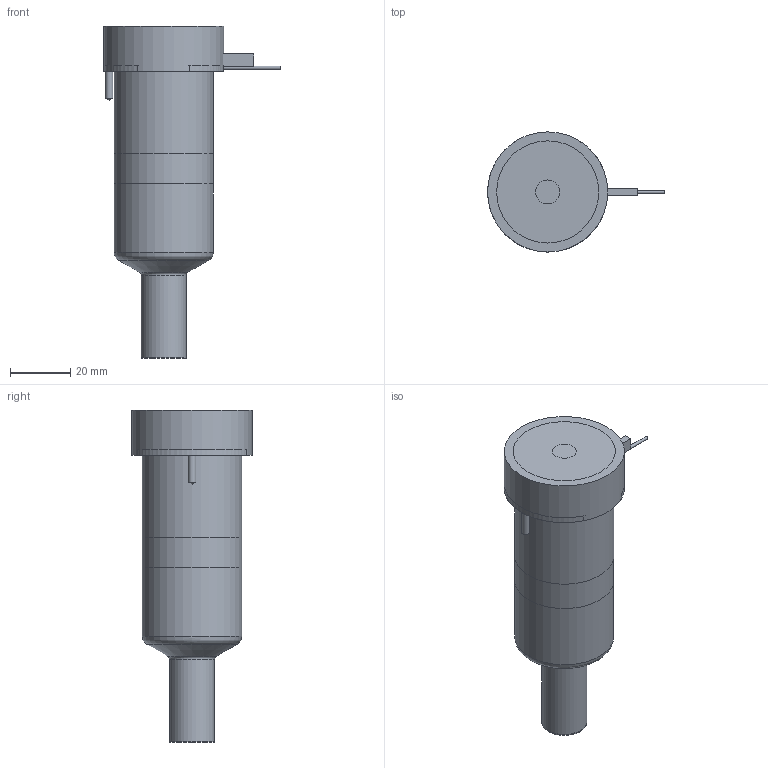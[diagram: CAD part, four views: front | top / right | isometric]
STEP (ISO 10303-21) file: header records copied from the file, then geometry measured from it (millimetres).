
FILE_DESCRIPTION(/* description */ (''),/* implementation_level */ '2;1');
FILE_NAME(/* name */ 'BXTSX-BXISX-BXOSX19075_250C_b',/* time_stamp */ '2008-04-29T14:06:43+12:00',/* author */ (''),/* organization */ (''),/* preprocessor_version */ 'ST-DEVELOPER v9',/* originating_system */ 'UGS - NX 4.0',/* authorisation */ '');
FILE_SCHEMA (('CONFIG_CONTROL_DESIGN'));
Length unit declared in the file: millimetre
Products named in the file (1): BXTSX-BXISX-BXOSX19075_250C_b
Bounding box: 58.85 x 40 x 110.51 mm (x, y, z)
Volume: 150701.3 mm3; surface area: 27552.6 mm2
Topology: 6 solids, 6 shells, 74 faces, 147 edges, 95 vertices
Faces by surface type: plane 35, cylinder 23, cone 8, torus 7, bspline 1
Full cylindrical faces by diameter (mm): 1 x3, 1.2 x1, 2.5 x2, 8 x1, 14.61 x1, 15.01 x2, 18.3 x1, 28.6 x1, 33 x2, 40 x1
Entity records: 1860 total; most frequent: CARTESIAN_POINT 376, DIRECTION 310, ORIENTED_EDGE 220, AXIS2_PLACEMENT_3D 136, EDGE_LOOP 112, EDGE_CURVE 110, VERTEX_POINT 87, ADVANCED_FACE 74
